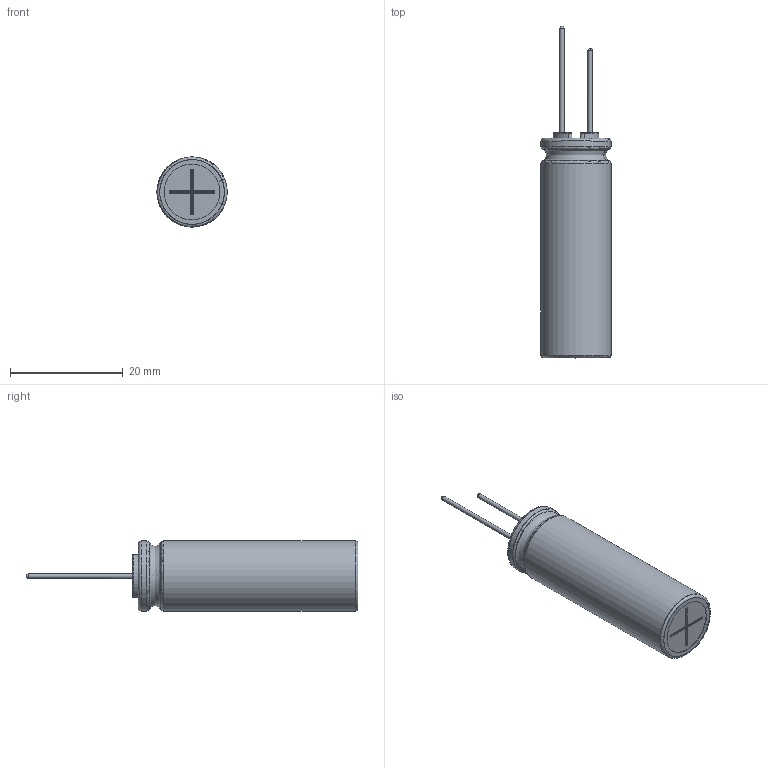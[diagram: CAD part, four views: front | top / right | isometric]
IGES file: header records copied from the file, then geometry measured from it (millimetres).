
Start section: JAMA-IS VERSION  1.0
Bounding box: 12.48 x 59 x 12.5 mm (x, y, z)
Surface area: 5127.4 mm2 (no closed solid volume)
Topology: 0 solids, 0 shells, 132 faces, 1445 edges, 1424 vertices
Faces by surface type: bspline 132
